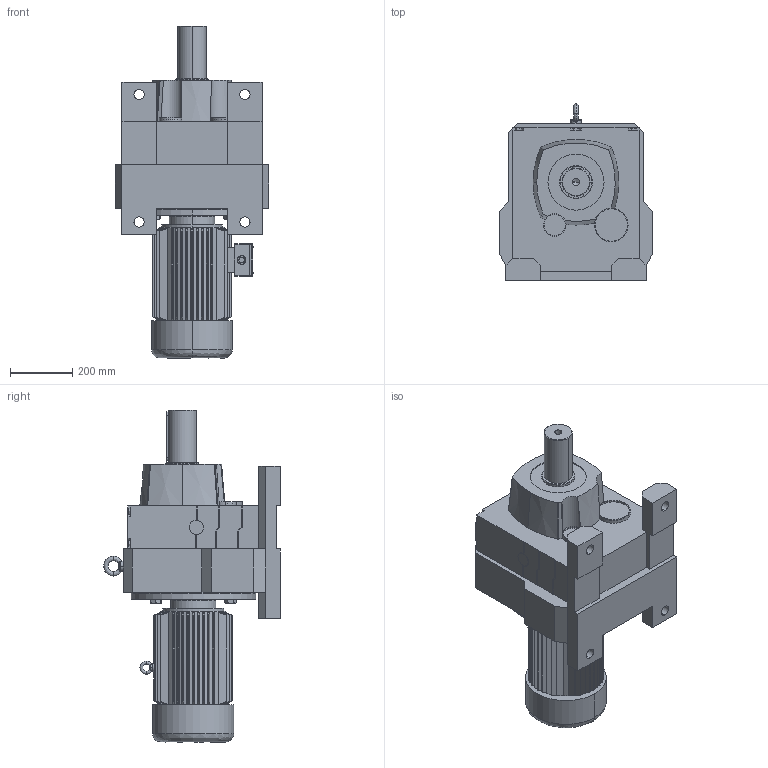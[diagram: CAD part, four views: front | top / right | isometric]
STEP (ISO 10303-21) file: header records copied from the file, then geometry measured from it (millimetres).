
FILE_DESCRIPTION (( 'STEP AP214' ), '1' );
FILE_NAME ('MR137.step', '2020-06-27T03:12:56', ( '' ), ( '' ), 'SwSTEP 2.0', 'SolidWorks 2016', '' );
FILE_SCHEMA (( 'AUTOMOTIVE_DESIGN' ));
Length unit declared in the file: millimetre
Products named in the file (1): MR137
Bounding box: 494 x 568.12 x 1067 mm (x, y, z)
Volume: 93050006.9 mm3; surface area: 2549254.3 mm2
Topology: 3 solids, 3 shells, 935 faces, 2423 edges, 1536 vertices
Faces by surface type: plane 515, cone 161, bspline 130, cylinder 129
Entity records: 43164 total; most frequent: CARTESIAN_POINT 11319, ORIENTED_EDGE 4826, DIRECTION 3904, EDGE_CURVE 2413, VERTEX_POINT 1536, VECTOR 1318, LINE 1318, AXIS2_PLACEMENT_3D 1293
